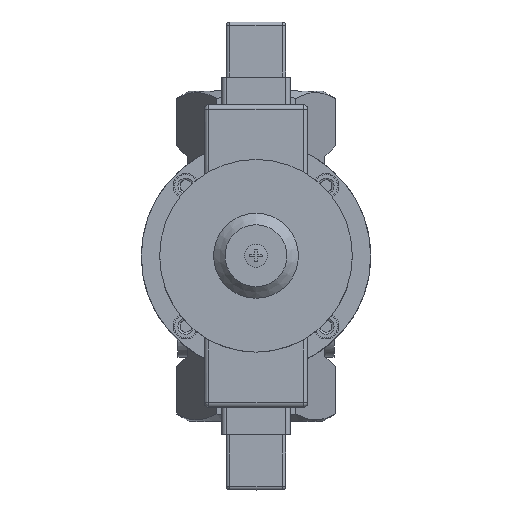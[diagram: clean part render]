
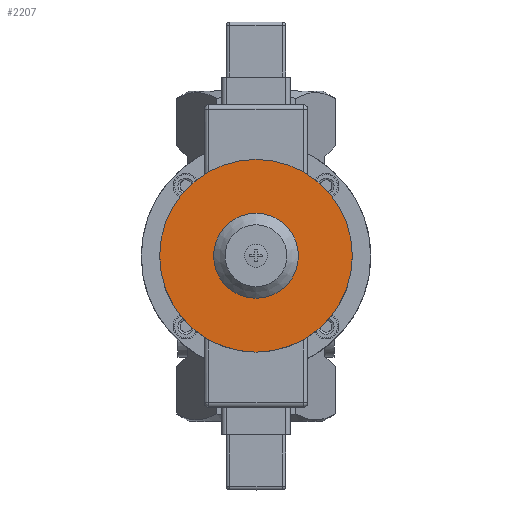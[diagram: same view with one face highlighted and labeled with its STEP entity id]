
A CAD part, top view. The second image highlights one B-rep face of the part: STEP entity #2207.
In plain terms, the highlighted planar face has unit normal (0, 0, 1).
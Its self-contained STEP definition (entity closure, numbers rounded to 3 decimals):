
#2207 = ADVANCED_FACE( '', ( #3414, #3415 ), #3416, .F. );
#3414 = FACE_BOUND( '', #5395, .T. );
#3415 = FACE_OUTER_BOUND( '', #5396, .T. );
#3416 = PLANE( '', #5397 );
#5395 = EDGE_LOOP( '', ( #8294 ) );
#5396 = EDGE_LOOP( '', ( #8295 ) );
#5397 = AXIS2_PLACEMENT_3D( '', #8296, #8297, #8298 );
#8294 = ORIENTED_EDGE( '', *, *, #9430, .F. );
#8295 = ORIENTED_EDGE( '', *, *, #9421, .F. );
#8296 = CARTESIAN_POINT( '', ( 0., 0., 78. ) );
#8297 = DIRECTION( '', ( 0., 0., -1. ) );
#8298 = DIRECTION( '', ( -1., 0., 0. ) );
#9421 = EDGE_CURVE( '', #10838, #10838, #10839, .T. );
#9430 = EDGE_CURVE( '', #10855, #10855, #10856, .T. );
#10838 = VERTEX_POINT( '', #13446 );
#10839 = CIRCLE( '', #13447, 42. );
#10855 = VERTEX_POINT( '', #13510 );
#10856 = CIRCLE( '', #13511, 16.6 );
#13446 = CARTESIAN_POINT( '', ( 42., 0., 78. ) );
#13447 = AXIS2_PLACEMENT_3D( '', #15131, #15132, #15133 );
#13510 = CARTESIAN_POINT( '', ( 0., 16.6, 78. ) );
#13511 = AXIS2_PLACEMENT_3D( '', #15145, #15146, #15147 );
#15131 = CARTESIAN_POINT( '', ( 0., 0., 78. ) );
#15132 = DIRECTION( '', ( 0., 0., -1. ) );
#15133 = DIRECTION( '', ( 1., 0., 0. ) );
#15145 = CARTESIAN_POINT( '', ( 0., 0., 78. ) );
#15146 = DIRECTION( '', ( 0., 0., 1. ) );
#15147 = DIRECTION( '', ( 0., 1., 0. ) );
